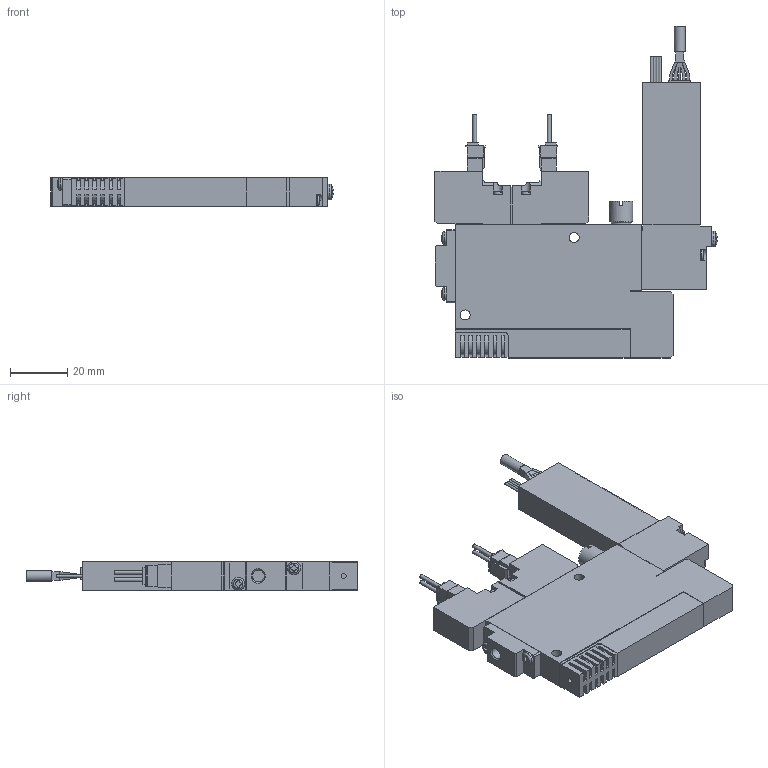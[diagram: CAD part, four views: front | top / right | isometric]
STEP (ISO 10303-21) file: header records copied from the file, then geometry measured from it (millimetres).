
FILE_DESCRIPTION(('STEP AP203'),'1');
FILE_NAME('5SS_3D.stp','2024-09-04T23:22:01',(' '),(' '),'Spatial InterOp 3D',' ',' ');
FILE_SCHEMA(('CONFIG_CONTROL_DESIGN'));
Length unit declared in the file: millimetre
Products named in the file (5): BSC1S※※10※5SS; Solenoid valve S; Pressure Sensor 10; Unit-S; BaseSS10R
Assembly tree (4 placements, depth 2):
  BSC1S※※10※5SS
    Solenoid valve S
    Pressure Sensor 10
    Unit-S
    BaseSS10R
Bounding box: 98.4 x 115.8 x 10 mm (x, y, z)
Volume: 55737.2 mm3; surface area: 22228.5 mm2
Topology: 4 solids, 4 shells, 528 faces, 1447 edges, 957 vertices
Faces by surface type: plane 400, cylinder 114, sphere 5, torus 5, cone 4
Full cylindrical faces by diameter (mm): 0.9 x4, 1.4 x4, 1.8 x1, 3 x4, 3.5 x8, 3.8 x1, 4.134 x3, 4.5 x2, 5.5 x2, 7 x1, 7.7 x1, 8 x1
Entity records: 16880 total; most frequent: CARTESIAN_POINT 3355, ORIENTED_EDGE 2762, DIRECTION 2656, EDGE_CURVE 1381, LINE 1084, VECTOR 1084, VERTEX_POINT 937, AXIS2_PLACEMENT_3D 786
